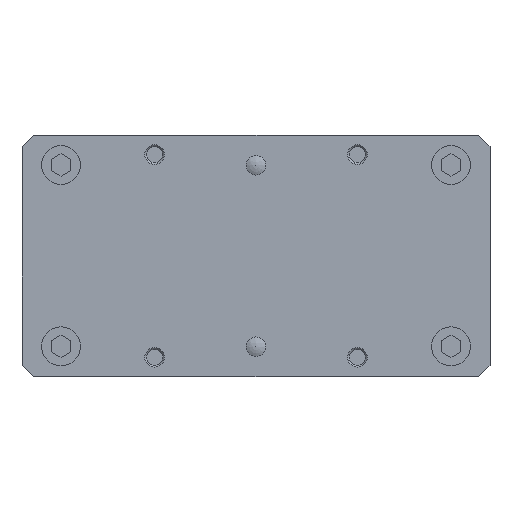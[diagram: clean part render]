
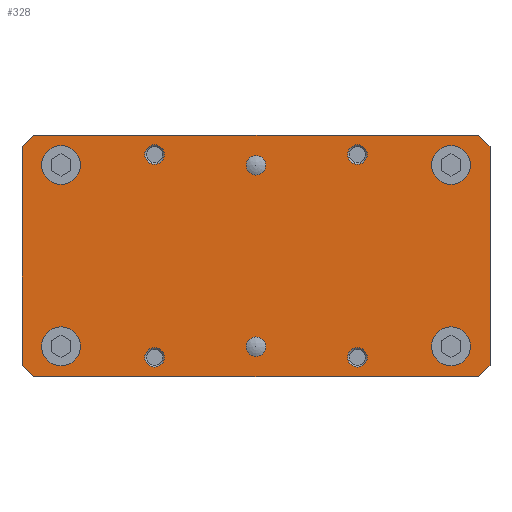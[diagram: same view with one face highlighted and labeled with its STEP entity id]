
A CAD part, top view. The second image highlights one B-rep face of the part: STEP entity #328.
In plain terms, the highlighted planar face has unit normal (0, 0, 1).
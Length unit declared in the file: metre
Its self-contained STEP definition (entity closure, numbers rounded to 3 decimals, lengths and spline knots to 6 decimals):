
#328 = ADVANCED_FACE( '', ( #769, #770, #771, #772, #773, #774, #775, #776, #777, #778, #779 ), #780, .F. );
#769 = FACE_BOUND( '', #1360, .T. );
#770 = FACE_BOUND( '', #1361, .T. );
#771 = FACE_BOUND( '', #1362, .T. );
#772 = FACE_BOUND( '', #1363, .T. );
#773 = FACE_BOUND( '', #1364, .T. );
#774 = FACE_BOUND( '', #1365, .T. );
#775 = FACE_BOUND( '', #1366, .T. );
#776 = FACE_BOUND( '', #1367, .T. );
#777 = FACE_BOUND( '', #1368, .T. );
#778 = FACE_BOUND( '', #1369, .T. );
#779 = FACE_OUTER_BOUND( '', #1370, .T. );
#780 = PLANE( '', #1371 );
#1360 = EDGE_LOOP( '', ( #2310 ) );
#1361 = EDGE_LOOP( '', ( #2311 ) );
#1362 = EDGE_LOOP( '', ( #2312 ) );
#1363 = EDGE_LOOP( '', ( #2313 ) );
#1364 = EDGE_LOOP( '', ( #2314 ) );
#1365 = EDGE_LOOP( '', ( #2315 ) );
#1366 = EDGE_LOOP( '', ( #2316 ) );
#1367 = EDGE_LOOP( '', ( #2317 ) );
#1368 = EDGE_LOOP( '', ( #2318 ) );
#1369 = EDGE_LOOP( '', ( #2319 ) );
#1370 = EDGE_LOOP( '', ( #2320, #2321, #2322, #2323, #2324, #2325, #2326, #2327 ) );
#1371 = AXIS2_PLACEMENT_3D( '', #2328, #2329, #2330 );
#2310 = ORIENTED_EDGE( '', *, *, #2836, .T. );
#2311 = ORIENTED_EDGE( '', *, *, #3107, .F. );
#2312 = ORIENTED_EDGE( '', *, *, #3108, .F. );
#2313 = ORIENTED_EDGE( '', *, *, #3109, .T. );
#2314 = ORIENTED_EDGE( '', *, *, #2850, .F. );
#2315 = ORIENTED_EDGE( '', *, *, #2954, .T. );
#2316 = ORIENTED_EDGE( '', *, *, #2888, .F. );
#2317 = ORIENTED_EDGE( '', *, *, #2873, .F. );
#2318 = ORIENTED_EDGE( '', *, *, #3110, .F. );
#2319 = ORIENTED_EDGE( '', *, *, #3050, .F. );
#2320 = ORIENTED_EDGE( '', *, *, #3111, .F. );
#2321 = ORIENTED_EDGE( '', *, *, #3096, .T. );
#2322 = ORIENTED_EDGE( '', *, *, #2939, .F. );
#2323 = ORIENTED_EDGE( '', *, *, #3112, .T. );
#2324 = ORIENTED_EDGE( '', *, *, #3099, .F. );
#2325 = ORIENTED_EDGE( '', *, *, #2929, .T. );
#2326 = ORIENTED_EDGE( '', *, *, #3113, .F. );
#2327 = ORIENTED_EDGE( '', *, *, #2934, .T. );
#2328 = CARTESIAN_POINT( '', ( -0.06, 0.031, 0.011 ) );
#2329 = DIRECTION( '', ( 0., 0., -1. ) );
#2330 = DIRECTION( '', ( 0., 1., 0. ) );
#2836 = EDGE_CURVE( '', #3246, #3246, #3247, .T. );
#2850 = EDGE_CURVE( '', #3270, #3270, #3271, .T. );
#2873 = EDGE_CURVE( '', #3310, #3310, #3311, .T. );
#2888 = EDGE_CURVE( '', #3336, #3336, #3337, .T. );
#2929 = EDGE_CURVE( '', #3404, #3405, #3406, .F. );
#2934 = EDGE_CURVE( '', #3413, #3414, #3415, .F. );
#2939 = EDGE_CURVE( '', #3422, #3423, #3424, .T. );
#2954 = EDGE_CURVE( '', #3443, #3443, #3444, .T. );
#3050 = EDGE_CURVE( '', #3598, #3598, #3599, .T. );
#3096 = EDGE_CURVE( '', #3663, #3423, #3664, .F. );
#3099 = EDGE_CURVE( '', #3404, #3667, #3668, .T. );
#3107 = EDGE_CURVE( '', #3676, #3676, #3677, .T. );
#3108 = EDGE_CURVE( '', #3678, #3678, #3679, .T. );
#3109 = EDGE_CURVE( '', #3680, #3680, #3681, .T. );
#3110 = EDGE_CURVE( '', #3682, #3682, #3683, .T. );
#3111 = EDGE_CURVE( '', #3663, #3414, #3684, .T. );
#3112 = EDGE_CURVE( '', #3422, #3667, #3685, .F. );
#3113 = EDGE_CURVE( '', #3413, #3405, #3686, .T. );
#3246 = VERTEX_POINT( '', #3848 );
#3247 = CIRCLE( '', #3849, 0.0025 );
#3270 = VERTEX_POINT( '', #3876 );
#3271 = CIRCLE( '', #3877, 0.0025 );
#3310 = VERTEX_POINT( '', #3957 );
#3311 = CIRCLE( '', #3958, 0.003 );
#3336 = VERTEX_POINT( '', #4057 );
#3337 = CIRCLE( '', #4058, 0.003 );
#3404 = VERTEX_POINT( '', #4179 );
#3405 = VERTEX_POINT( '', #4180 );
#3406 = LINE( '', #4181, #4182 );
#3413 = VERTEX_POINT( '', #4192 );
#3414 = VERTEX_POINT( '', #4193 );
#3415 = LINE( '', #4194, #4195 );
#3422 = VERTEX_POINT( '', #4205 );
#3423 = VERTEX_POINT( '', #4206 );
#3424 = LINE( '', #4207, #4208 );
#3443 = VERTEX_POINT( '', #4233 );
#3444 = CIRCLE( '', #4234, 0.0025 );
#3598 = VERTEX_POINT( '', #4497 );
#3599 = CIRCLE( '', #4498, 0.003 );
#3663 = VERTEX_POINT( '', #4587 );
#3664 = LINE( '', #4588, #4589 );
#3667 = VERTEX_POINT( '', #4593 );
#3668 = LINE( '', #4594, #4595 );
#3676 = VERTEX_POINT( '', #4606 );
#3677 = CIRCLE( '', #4607, 0.0025 );
#3678 = VERTEX_POINT( '', #4608 );
#3679 = CIRCLE( '', #4609, 0.0025 );
#3680 = VERTEX_POINT( '', #4610 );
#3681 = CIRCLE( '', #4611, 0.0025 );
#3682 = VERTEX_POINT( '', #4612 );
#3683 = CIRCLE( '', #4613, 0.003 );
#3684 = LINE( '', #4614, #4615 );
#3685 = LINE( '', #4616, #4617 );
#3686 = LINE( '', #4618, #4619 );
#3848 = CARTESIAN_POINT( '', ( -0.0235, -0.026, 0.011 ) );
#3849 = AXIS2_PLACEMENT_3D( '', #4868, #4869, #4870 );
#3876 = CARTESIAN_POINT( '', ( -0.0025, -0.02325, 0.011 ) );
#3877 = AXIS2_PLACEMENT_3D( '', #4890, #4891, #4892 );
#3957 = CARTESIAN_POINT( '', ( 0.047, -0.02325, 0.011 ) );
#3958 = AXIS2_PLACEMENT_3D( '', #4922, #4923, #4924 );
#4057 = CARTESIAN_POINT( '', ( -0.047, -0.02325, 0.011 ) );
#4058 = AXIS2_PLACEMENT_3D( '', #4933, #4934, #4935 );
#4179 = CARTESIAN_POINT( '', ( 0.06, 0.028, 0.011 ) );
#4180 = CARTESIAN_POINT( '', ( 0.057, 0.031, 0.011 ) );
#4181 = CARTESIAN_POINT( '', ( 0.057, 0.031, 0.011 ) );
#4182 = VECTOR( '', #4978, 1. );
#4192 = CARTESIAN_POINT( '', ( -0.057, 0.031, 0.011 ) );
#4193 = CARTESIAN_POINT( '', ( -0.06, 0.028, 0.011 ) );
#4194 = CARTESIAN_POINT( '', ( -0.06, 0.028, 0.011 ) );
#4195 = VECTOR( '', #4982, 1. );
#4205 = CARTESIAN_POINT( '', ( 0.057, -0.031, 0.011 ) );
#4206 = CARTESIAN_POINT( '', ( -0.057, -0.031, 0.011 ) );
#4207 = CARTESIAN_POINT( '', ( 0.06, -0.031, 0.011 ) );
#4208 = VECTOR( '', #4986, 1. );
#4233 = CARTESIAN_POINT( '', ( -0.0025, 0.02325, 0.011 ) );
#4234 = AXIS2_PLACEMENT_3D( '', #5002, #5003, #5004 );
#4497 = CARTESIAN_POINT( '', ( 0.053, 0.02325, 0.011 ) );
#4498 = AXIS2_PLACEMENT_3D( '', #5117, #5118, #5119 );
#4587 = CARTESIAN_POINT( '', ( -0.06, -0.028, 0.011 ) );
#4588 = CARTESIAN_POINT( '', ( -0.057, -0.031, 0.011 ) );
#4589 = VECTOR( '', #5166, 1. );
#4593 = CARTESIAN_POINT( '', ( 0.06, -0.028, 0.011 ) );
#4594 = CARTESIAN_POINT( '', ( 0.06, 0.031, 0.011 ) );
#4595 = VECTOR( '', #5168, 1. );
#4606 = CARTESIAN_POINT( '', ( 0.0235, -0.026, 0.011 ) );
#4607 = AXIS2_PLACEMENT_3D( '', #5172, #5173, #5174 );
#4608 = CARTESIAN_POINT( '', ( -0.0235, 0.026, 0.011 ) );
#4609 = AXIS2_PLACEMENT_3D( '', #5175, #5176, #5177 );
#4610 = CARTESIAN_POINT( '', ( 0.0235, 0.026, 0.011 ) );
#4611 = AXIS2_PLACEMENT_3D( '', #5178, #5179, #5180 );
#4612 = CARTESIAN_POINT( '', ( -0.047, 0.02325, 0.011 ) );
#4613 = AXIS2_PLACEMENT_3D( '', #5181, #5182, #5183 );
#4614 = CARTESIAN_POINT( '', ( -0.06, -0.031, 0.011 ) );
#4615 = VECTOR( '', #5184, 1. );
#4616 = CARTESIAN_POINT( '', ( 0.06, -0.028, 0.011 ) );
#4617 = VECTOR( '', #5185, 1. );
#4618 = CARTESIAN_POINT( '', ( -0.06, 0.031, 0.011 ) );
#4619 = VECTOR( '', #5186, 1. );
#4868 = CARTESIAN_POINT( '', ( -0.026, -0.026, 0.011 ) );
#4869 = DIRECTION( '', ( 0., 0., -1. ) );
#4870 = DIRECTION( '', ( 1., 0., 0. ) );
#4890 = CARTESIAN_POINT( '', ( 0., -0.02325, 0.011 ) );
#4891 = DIRECTION( '', ( 0., 0., 1. ) );
#4892 = DIRECTION( '', ( -1., 0., 0. ) );
#4922 = CARTESIAN_POINT( '', ( 0.05, -0.02325, 0.011 ) );
#4923 = DIRECTION( '', ( 0., 0., 1. ) );
#4924 = DIRECTION( '', ( -1., 0., 0. ) );
#4933 = CARTESIAN_POINT( '', ( -0.05, -0.02325, 0.011 ) );
#4934 = DIRECTION( '', ( 0., 0., 1. ) );
#4935 = DIRECTION( '', ( 1., 0., 0. ) );
#4978 = DIRECTION( '', ( 0.707, -0.707, 0. ) );
#4982 = DIRECTION( '', ( 0.707, 0.707, 0. ) );
#4986 = DIRECTION( '', ( -1., 0., 0. ) );
#5002 = CARTESIAN_POINT( '', ( 0., 0.02325, 0.011 ) );
#5003 = DIRECTION( '', ( 0., 0., -1. ) );
#5004 = DIRECTION( '', ( -1., 0., 0. ) );
#5117 = CARTESIAN_POINT( '', ( 0.05, 0.02325, 0.011 ) );
#5118 = DIRECTION( '', ( 0., 0., 1. ) );
#5119 = DIRECTION( '', ( 1., 0., 0. ) );
#5166 = DIRECTION( '', ( -0.707, 0.707, 0. ) );
#5168 = DIRECTION( '', ( 0., -1., 0. ) );
#5172 = CARTESIAN_POINT( '', ( 0.026, -0.026, 0.011 ) );
#5173 = DIRECTION( '', ( 0., 0., 1. ) );
#5174 = DIRECTION( '', ( -1., 0., 0. ) );
#5175 = CARTESIAN_POINT( '', ( -0.026, 0.026, 0.011 ) );
#5176 = DIRECTION( '', ( 0., 0., 1. ) );
#5177 = DIRECTION( '', ( 1., 0., 0. ) );
#5178 = CARTESIAN_POINT( '', ( 0.026, 0.026, 0.011 ) );
#5179 = DIRECTION( '', ( 0., 0., -1. ) );
#5180 = DIRECTION( '', ( -1., 0., 0. ) );
#5181 = CARTESIAN_POINT( '', ( -0.05, 0.02325, 0.011 ) );
#5182 = DIRECTION( '', ( 0., 0., 1. ) );
#5183 = DIRECTION( '', ( 1., 0., 0. ) );
#5184 = DIRECTION( '', ( 0., 1., 0. ) );
#5185 = DIRECTION( '', ( -0.707, -0.707, 0. ) );
#5186 = DIRECTION( '', ( 1., 0., 0. ) );
